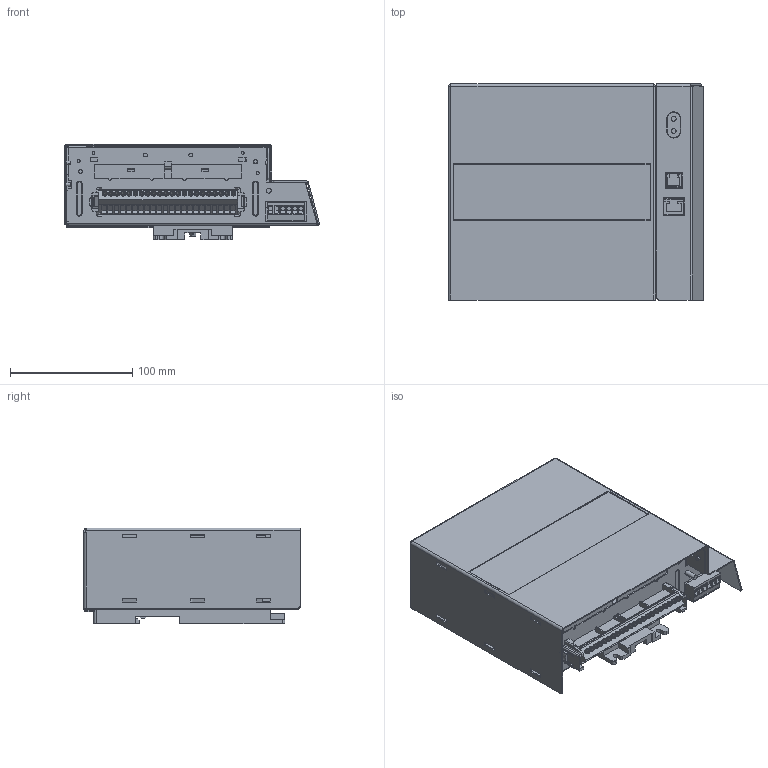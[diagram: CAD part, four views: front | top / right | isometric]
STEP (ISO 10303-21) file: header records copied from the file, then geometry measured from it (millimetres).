
FILE_DESCRIPTION((''),'2;1');
FILE_NAME('5000B_IGESFILE','2012-04-04T',('chrisloe'),(''),'PRO/ENGINEER BY PARAMETRIC TECHNOLOGY CORPORATION, 2010180','PRO/ENGINEER BY PARAMETRIC TECHNOLOGY CORPORATION, 2010180','');
FILE_SCHEMA(('CONFIG_CONTROL_DESIGN'));
Products named in the file (1): 5000B_IGESFILE
Bounding box: 208.13 x 176.5 x 78.3 mm (x, y, z)
Volume: 215230.1 mm3; surface area: 310552.2 mm2
Topology: 3 solids, 7 shells, 2258 faces, 5973 edges, 3757 vertices
Faces by surface type: plane 1508, cylinder 634, torus 45, sphere 43, cone 24, bspline 4
Entity records: 69664 total; most frequent: CARTESIAN_POINT 12598, ORIENTED_EDGE 11930, DIRECTION 11684, EDGE_CURVE 5973, VECTOR 4528, LINE 4528, VERTEX_POINT 3757, AXIS2_PLACEMENT_3D 3578
